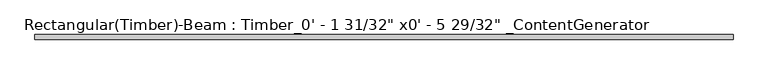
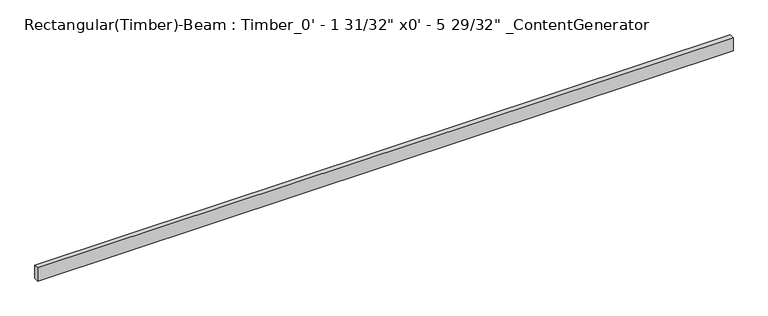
"""IFC4 building model written with IfcOpenShell, lengths in millimetres: beam geometry."""

from ifc_helpers import new_model, si_unit, frame, origin, place, context, project, spatial, polyline, outline, extrude, source, transform, mapped, element, save


def beam_47c8efd2(model_context):
    return source(origin(), model_context, "Body", "SweptSolid", [
        extrude(outline(polyline([(3810.0, 25.4), (3810.0, -25.4), (-3810.0, -25.4), (-3810.0, 25.4), (3810.0, 25.4)])), frame((0.0, 0.0, -76.2), z_axis=(0.0, 0.0, 1.0), x_axis=(1.0, 0.0, 0.0)), (0.0, 0.0, 1.0), 152.4),
    ])


if __name__ == "__main__":
    model = new_model("IFC4")
    model_context = context("Model", 3, world=origin())
    ifc_project = project(units=[si_unit("LENGTHUNIT", "METRE", prefix="MILLI")], contexts=[model_context])
    site = spatial("IfcSite", under=ifc_project)
    building = spatial("IfcBuilding", under=site)
    placement = place(None, origin())
    beam_shape = beam_47c8efd2(model_context)
    element("IfcBeam", 1, ObjectType="Rectangular(Timber)-Beam : Timber_0' - 1 31/32\" x0' - 5 29/32\" _ContentGenerator", at=placement, inside=building, context=model_context, shape_type="MappedRepresentation", body=[
        mapped(beam_shape, transform((0.0, 0.0, 0.0), x_axis=(1.0, 0.0, 0.0), y_axis=(0.0, 1.0, 0.0), z_axis=(0.0, 0.0, 1.0))),
    ])
    save(model, "model.ifc")
